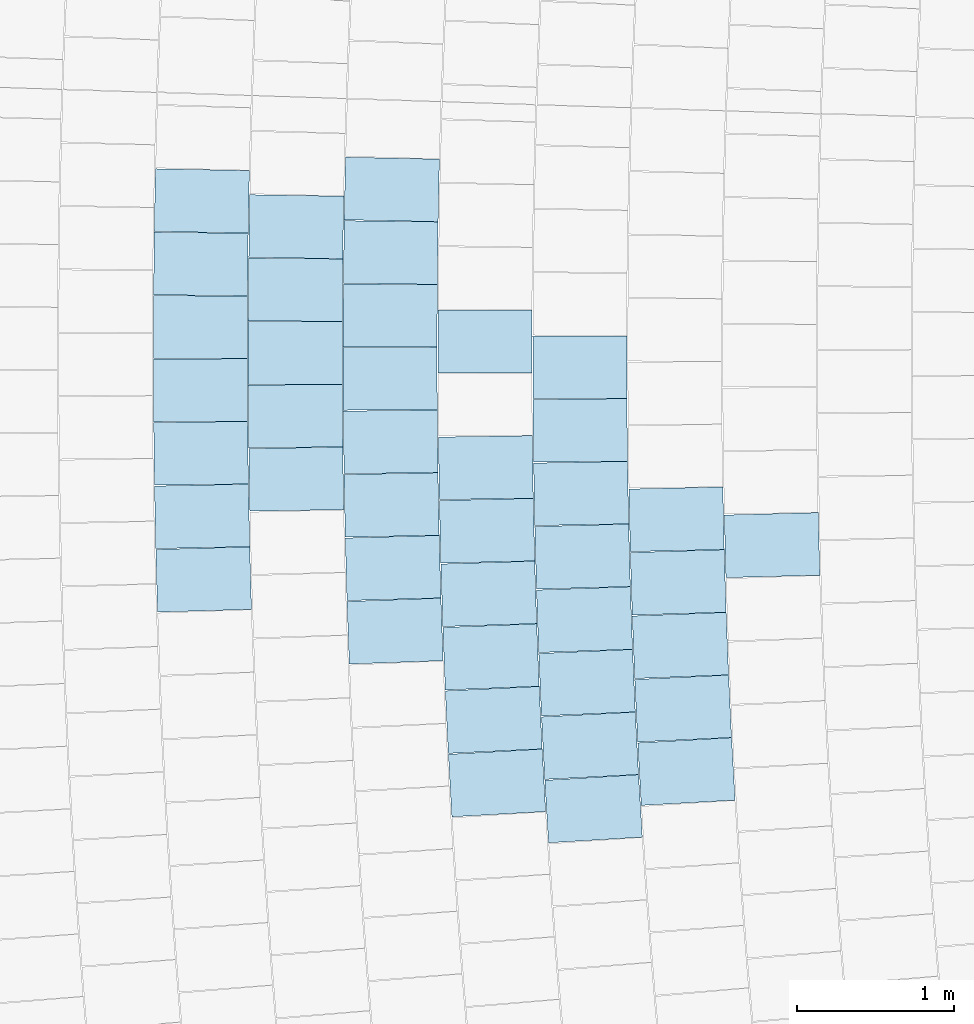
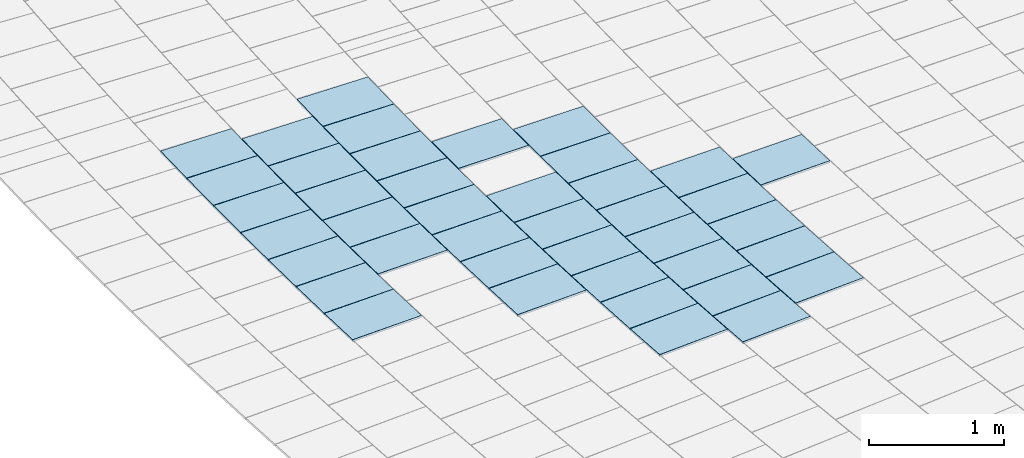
# One storey, part 82 of 438: 41 slabs.
"""IFC2X3 building model written with IfcOpenShell, lengths in millimetres."""

from ifc_helpers import new_model, entity, si_unit, converted_unit, derived_unit, direction, frame, origin, place, context, subcontext, project, spatial, polyline, outline, extrude, material, layer, layer_set, layer_usage, type_object, element, save


model = new_model("IFC2X3")

# Units and contexts
model_context = context("Model", 3, precision=0.01, world=origin(), true_north=direction((6.123031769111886e-17, 1.0)))
body_context = subcontext(model_context, "Body", "Model", "MODEL_VIEW")
ifc_project = project(units=[si_unit("LENGTHUNIT", "METRE", prefix="MILLI"), si_unit("AREAUNIT", "SQUARE_METRE"), si_unit("VOLUMEUNIT", "CUBIC_METRE"), converted_unit("PLANEANGLEUNIT", "DEGREE", entity("IfcRatioMeasure", 0.017453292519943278), si_unit("PLANEANGLEUNIT", "RADIAN"), dimensions=[0, 0, 0, 0, 0, 0, 0]), si_unit("MASSUNIT", "GRAM", prefix="KILO"), derived_unit("MASSDENSITYUNIT", [(si_unit("MASSUNIT", "GRAM", prefix="KILO"), 1), (si_unit("LENGTHUNIT", "METRE"), -3)]), derived_unit("MOMENTOFINERTIAUNIT", [(si_unit("LENGTHUNIT", "METRE"), 4)]), si_unit("TIMEUNIT", "SECOND"), si_unit("FREQUENCYUNIT", "HERTZ"), si_unit("THERMODYNAMICTEMPERATUREUNIT", "DEGREE_CELSIUS"), derived_unit("THERMALTRANSMITTANCEUNIT", [(si_unit("MASSUNIT", "GRAM", prefix="KILO"), 1), (si_unit("THERMODYNAMICTEMPERATUREUNIT", "KELVIN"), -1), (si_unit("TIMEUNIT", "SECOND"), -3)]), derived_unit("THERMALCONDUCTANCEUNIT", [(si_unit("MASSUNIT", "GRAM", prefix="KILO"), 1), (si_unit("LENGTHUNIT", "METRE"), 1), (si_unit("THERMODYNAMICTEMPERATUREUNIT", "KELVIN"), -1), (si_unit("TIMEUNIT", "SECOND"), -3)]), derived_unit("VOLUMETRICFLOWRATEUNIT", [(si_unit("LENGTHUNIT", "METRE"), 3), (si_unit("TIMEUNIT", "SECOND"), -1)]), derived_unit("MASSFLOWRATEUNIT", [(si_unit("MASSUNIT", "GRAM", prefix="KILO"), 1), (si_unit("TIMEUNIT", "SECOND"), -1)]), derived_unit("ROTATIONALFREQUENCYUNIT", [(si_unit("TIMEUNIT", "SECOND"), -1)]), si_unit("ELECTRICCURRENTUNIT", "AMPERE"), si_unit("ELECTRICVOLTAGEUNIT", "VOLT"), si_unit("POWERUNIT", "WATT"), converted_unit("FORCEUNIT", "KIP", entity("IfcRatioMeasure", 2.088543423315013e-05), si_unit("FORCEUNIT", "NEWTON"), dimensions=[1, 1, -2, 0, 0, 0, 0]), si_unit("ILLUMINANCEUNIT", "LUX"), si_unit("LUMINOUSFLUXUNIT", "LUMEN"), si_unit("LUMINOUSINTENSITYUNIT", "CANDELA"), derived_unit("USERDEFINED", [(si_unit("MASSUNIT", "GRAM", prefix="KILO"), -1), (si_unit("LENGTHUNIT", "METRE"), -2), (si_unit("TIMEUNIT", "SECOND"), 3), (si_unit("LUMINOUSFLUXUNIT", "LUMEN"), 1)]), derived_unit("USERDEFINED", [(si_unit("MASSUNIT", "GRAM", prefix="KILO"), 1), (si_unit("LENGTHUNIT", "METRE"), 3), (si_unit("TIMEUNIT", "SECOND"), -3), (si_unit("ELECTRICCURRENTUNIT", "AMPERE"), -2)]), derived_unit("USERDEFINED", [(si_unit("LENGTHUNIT", "METRE"), 2), (si_unit("TIMEUNIT", "SECOND"), -2)]), derived_unit("SOUNDPOWERUNIT", [(si_unit("MASSUNIT", "GRAM", prefix="KILO"), 1), (si_unit("LENGTHUNIT", "METRE"), 2), (si_unit("TIMEUNIT", "SECOND"), -3)]), derived_unit("SOUNDPRESSUREUNIT", [(si_unit("MASSUNIT", "GRAM", prefix="KILO"), 1), (si_unit("LENGTHUNIT", "METRE"), -1), (si_unit("TIMEUNIT", "SECOND"), -2)]), derived_unit("LINEARVELOCITYUNIT", [(si_unit("LENGTHUNIT", "METRE"), 1), (si_unit("TIMEUNIT", "SECOND"), -1)]), si_unit("PRESSUREUNIT", "PASCAL"), derived_unit("USERDEFINED", [(si_unit("LENGTHUNIT", "METRE"), -2), (si_unit("MASSUNIT", "GRAM", prefix="KILO"), 1), (si_unit("TIMEUNIT", "SECOND"), -2)]), derived_unit("LINEARFORCEUNIT", [(si_unit("MASSUNIT", "GRAM", prefix="KILO"), 1), (si_unit("LENGTHUNIT", "METRE"), 1), (si_unit("TIMEUNIT", "SECOND"), -2), (si_unit("LENGTHUNIT", "METRE"), -1)]), derived_unit("PLANARFORCEUNIT", [(si_unit("MASSUNIT", "GRAM", prefix="KILO"), 1), (si_unit("LENGTHUNIT", "METRE"), 1), (si_unit("TIMEUNIT", "SECOND"), -2), (si_unit("LENGTHUNIT", "METRE"), -2)]), derived_unit("SPECIFICHEATCAPACITYUNIT", [(si_unit("LENGTHUNIT", "METRE"), 2), (si_unit("TIMEUNIT", "SECOND"), -2), (si_unit("THERMODYNAMICTEMPERATUREUNIT", "KELVIN"), -1)]), derived_unit("VAPORPERMEABILITYUNIT", [(si_unit("TIMEUNIT", "SECOND"), 1), (si_unit("LENGTHUNIT", "METRE"), -1)]), derived_unit("DYNAMICVISCOSITYUNIT", [(si_unit("MASSUNIT", "GRAM", prefix="KILO"), 1), (si_unit("LENGTHUNIT", "METRE"), -1), (si_unit("TIMEUNIT", "SECOND"), -1)]), derived_unit("THERMALEXPANSIONCOEFFICIENTUNIT", [(si_unit("THERMODYNAMICTEMPERATUREUNIT", "KELVIN"), -1)])], contexts=[model_context])

# Site, building, storey
site_placement = place(None, frame((0.0, 0.0, 0.0), z_axis=(0.0, 0.0, 1.0), x_axis=(0.8191520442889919, 0.5735764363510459, 0.0)))
site = spatial("IfcSite", under=ifc_project, at=site_placement, Name="Default", CompositionType="ELEMENT")
building_placement = place(site_placement, origin())
building = spatial("IfcBuilding", under=site, at=building_placement, CompositionType="ELEMENT")
storey_placement = place(building_placement, origin())
storey = spatial("IfcBuildingStorey", under=building, at=storey_placement, Name="PLAN", CompositionType="ELEMENT", Elevation=0.0)

# Slabs
ifc_material = material(Name="Paint-01")
ifc_layer = layer(ifc_material, 20.00000000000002)
ifc_layer_set = layer_set([ifc_layer], Name="Floor:Slab-179:1000")
ifc_layer_usage = layer_usage(ifc_layer_set, "AXIS3", "POSITIVE", 0.0)
slab_type = type_object("IfcSlabType", Name="Floor:Slab-179:1000", PredefinedType="FLOOR", material=ifc_layer_set)
slab_1_placement = place(storey_placement, origin())
element("IfcSlab", 1, at=slab_1_placement, inside=storey, type_object=slab_type, material=ifc_layer_usage, Name="Floor:Slab-179:1000", ObjectType="Floor:Slab-179:1000", PredefinedType="FLOOR", context=body_context, shape_type="SweptSolid", body=[
    extrude(outline(polyline([(-300.0, -200.0000029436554), (299.9999976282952, -200.00000294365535), (300.0, 200.00000294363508), (-299.9999976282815, 200.00000294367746), (-300.0, -200.0000029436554)])), frame((-81041.55861990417, -42702.89203762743, 520.0), z_axis=(0.0, 0.0, -1.0), x_axis=(0.849915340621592, -0.5269192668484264, 0.0)), (0.0, 0.0, 1.0), 19.99999999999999),
])
slab_2_placement = place(storey_placement, origin())
element("IfcSlab", 2, at=slab_2_placement, inside=storey, type_object=slab_type, material=ifc_layer_usage, Name="Floor:Slab-179:1000", ObjectType="Floor:Slab-179:1000", PredefinedType="FLOOR", context=body_context, shape_type="SweptSolid", body=[
    extrude(outline(polyline([(-300.0, -200.0000029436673), (299.99999762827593, -200.00000294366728), (300.0, 200.0000029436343), (-299.99999762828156, 200.00000294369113), (-300.0, -200.0000029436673)])), frame((-82072.65068032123, -42069.666427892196, 520.0), z_axis=(0.0, 0.0, -1.0), x_axis=(0.8499701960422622, -0.5268307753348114, 0.0)), (0.0, 0.0, 1.0), 20.000000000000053),
])
slab_3_placement = place(storey_placement, origin())
element("IfcSlab", 3, at=slab_3_placement, inside=storey, type_object=slab_type, material=ifc_layer_usage, Name="Floor:Slab-179:1000", ObjectType="Floor:Slab-179:1000", PredefinedType="FLOOR", context=body_context, shape_type="SweptSolid", body=[
    extrude(outline(polyline([(-300.0, -200.00000294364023), (299.9999976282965, -200.00000294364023), (300.0, 200.0000029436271), (-299.9999976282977, 200.00000294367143), (-300.0, -200.00000294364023)])), frame((-81662.77969500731, -42557.544118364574, 520.0), z_axis=(0.0, 0.0, -1.0), x_axis=(0.852121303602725, -0.523344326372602, 0.0)), (0.0, 0.0, 1.0), 19.99999999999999),
])
slab_4_placement = place(storey_placement, origin())
element("IfcSlab", 4, at=slab_4_placement, inside=storey, type_object=slab_type, material=ifc_layer_usage, Name="Floor:Slab-179:1000", ObjectType="Floor:Slab-179:1000", PredefinedType="FLOOR", context=body_context, shape_type="SweptSolid", body=[
    extrude(outline(polyline([(-300.0, -200.000002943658), (299.99999762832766, -200.000002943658), (300.0, 200.0000029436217), (-299.9999976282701, 200.0000029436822), (-300.0, -200.000002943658)])), frame((-79765.83576277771, -41833.30894435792, 520.0), z_axis=(0.0, 0.0, -1.0), x_axis=(0.8338171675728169, -0.5520406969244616, 0.0)), (0.0, 0.0, 1.0), 20.000000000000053),
])
slab_5_placement = place(storey_placement, origin())
element("IfcSlab", 5, at=slab_5_placement, inside=storey, type_object=slab_type, material=ifc_layer_usage, Name="Floor:Slab-179:1000", ObjectType="Floor:Slab-179:1000", PredefinedType="FLOOR", context=body_context, shape_type="SweptSolid", body=[
    extrude(outline(polyline([(-300.0, -200.00000294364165), (299.9999976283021, -200.00000294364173), (300.0, 200.00000294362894), (-299.9999976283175, 200.0000029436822), (-300.0, -200.00000294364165)])), frame((-80828.0294611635, -42361.68069558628, 520.0), z_axis=(0.0, 0.0, -1.0), x_axis=(0.845458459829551, -0.5340411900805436, 0.0)), (0.0, 0.0, 1.0), 20.000000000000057),
])
slab_6_placement = place(storey_placement, origin())
element("IfcSlab", 6, at=slab_6_placement, inside=storey, type_object=slab_type, material=ifc_layer_usage, Name="Floor:Slab-179:1000", ObjectType="Floor:Slab-179:1000", PredefinedType="FLOOR", context=body_context, shape_type="SweptSolid", body=[
    extrude(outline(polyline([(-300.0, -200.00000294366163), (299.99999762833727, -200.00000294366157), (300.0, 200.0000029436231), (-299.9999976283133, 200.0000029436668), (-300.0, -200.00000294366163)])), frame((-80611.64116905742, -42022.27535000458, 520.0), z_axis=(0.0, 0.0, -1.0), x_axis=(0.8409419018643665, -0.5411254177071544, 0.0)), (0.0, 0.0, 1.0), 20.000000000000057),
])
slab_7_placement = place(storey_placement, origin())
element("IfcSlab", 7, at=slab_7_placement, inside=storey, type_object=slab_type, material=ifc_layer_usage, Name="Floor:Slab-179:1000", ObjectType="Floor:Slab-179:1000", PredefinedType="FLOOR", context=body_context, shape_type="SweptSolid", body=[
    extrude(outline(polyline([(-300.0, -200.0000029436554), (299.9999976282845, -200.00000294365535), (300.0, 200.00000294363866), (-299.99999762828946, 200.00000294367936), (-300.0, -200.0000029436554)])), frame((-80392.40901747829, -41684.69995800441, 520.0), z_axis=(0.0, 0.0, -1.0), x_axis=(0.8363659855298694, -0.5481714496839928, 0.0)), (0.0, 0.0, 1.0), 20.000000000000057),
])
slab_8_placement = place(storey_placement, origin())
element("IfcSlab", 8, at=slab_8_placement, inside=storey, type_object=slab_type, material=ifc_layer_usage, Name="Floor:Slab-179:1000", ObjectType="Floor:Slab-179:1000", PredefinedType="FLOOR", context=body_context, shape_type="SweptSolid", body=[
    extrude(outline(polyline([(-300.0, -200.00000294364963), (299.99999762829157, -200.00000294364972), (300.0, 200.00000294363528), (-299.9999976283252, 200.00000294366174), (-300.0, -200.00000294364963)])), frame((-80170.34848105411, -41348.97834753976, 520.0), z_axis=(0.0, 0.0, -1.0), x_axis=(0.8317310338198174, -0.5551787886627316, 0.0)), (0.0, 0.0, 1.0), 19.99999999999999),
])
slab_9_placement = place(storey_placement, origin())
element("IfcSlab", 9, at=slab_9_placement, inside=storey, type_object=slab_type, material=ifc_layer_usage, Name="Floor:Slab-179:1000", ObjectType="Floor:Slab-179:1000", PredefinedType="FLOOR", context=body_context, shape_type="SweptSolid", body=[
    extrude(outline(polyline([(-300.0, -200.00000294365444), (299.99999762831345, -200.00000294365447), (300.0, 200.00000294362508), (-299.9999976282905, 200.0000029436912), (-300.0, -200.00000294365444)])), frame((-81450.7204170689, -42215.45442834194, 520.0), z_axis=(0.0, 0.0, -1.0), x_axis=(0.8477502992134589, -0.530395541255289, 0.0)), (0.0, 0.0, 1.0), 20.000000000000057),
])
slab_10_placement = place(storey_placement, origin())
element("IfcSlab", 10, at=slab_10_placement, inside=storey, type_object=slab_type, material=ifc_layer_usage, Name="Floor:Slab-179:1000", ObjectType="Floor:Slab-179:1000", PredefinedType="FLOOR", context=body_context, shape_type="SweptSolid", body=[
    extrude(outline(polyline([(-300.0, -200.0000029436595), (299.9999976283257, -200.00000294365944), (300.0, 200.0000029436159), (-299.9999976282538, 200.0000029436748), (-300.0, -200.0000029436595)])), frame((-81018.12458385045, -41536.61153836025, 520.0), z_axis=(0.0, 0.0, -1.0), x_axis=(0.8388335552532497, -0.5443879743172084, 0.0)), (0.0, 0.0, 1.0), 19.999999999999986),
])
slab_11_placement = place(storey_placement, origin())
element("IfcSlab", 11, at=slab_11_placement, inside=storey, type_object=slab_type, material=ifc_layer_usage, Name="Floor:Slab-179:1000", ObjectType="Floor:Slab-179:1000", PredefinedType="FLOOR", context=body_context, shape_type="SweptSolid", body=[
    extrude(outline(polyline([(-300.0, -200.00000294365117), (299.9999976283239, -200.00000294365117), (300.0, 200.00000294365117), (-299.99999762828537, 200.00000294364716), (-300.0, -200.00000294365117)])), frame((-81235.83045006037, -41875.13576082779, 520.0), z_axis=(0.0, 0.0, -1.0), x_axis=(0.8433209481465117, -0.5374102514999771, 0.0)), (0.0, 0.0, 1.0), 20.000000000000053),
])
slab_12_placement = place(storey_placement, origin())
element("IfcSlab", 12, at=slab_12_placement, inside=storey, type_object=slab_type, material=ifc_layer_usage, Name="Floor:Slab-179:1000", ObjectType="Floor:Slab-179:1000", PredefinedType="FLOOR", context=body_context, shape_type="SweptSolid", body=[
    extrude(outline(polyline([(-300.0, -200.0000029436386), (299.9999976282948, -200.00000294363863), (300.0, 200.00000294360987), (-299.99999762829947, 200.0000029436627), (-300.0, -200.0000029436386)])), frame((-80574.32528129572, -40865.03949959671, 520.0), z_axis=(0.0, 0.0, -1.0), x_axis=(0.8296858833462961, -0.5582305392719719, 0.0)), (0.0, 0.0, 1.0), 20.000000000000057),
])
slab_13_placement = place(storey_placement, origin())
element("IfcSlab", 13, at=slab_13_placement, inside=storey, type_object=slab_type, material=ifc_layer_usage, Name="Floor:Slab-179:1000", ObjectType="Floor:Slab-179:1000", PredefinedType="FLOOR", context=body_context, shape_type="SweptSolid", body=[
    extrude(outline(polyline([(-300.0, -200.0000029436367), (299.9999976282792, -200.00000294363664), (300.0, 200.00000294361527), (-299.99999762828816, 200.00000294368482), (-300.0, -200.0000029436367)])), frame((-80348.26238957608, -40532.03790445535, 520.0), z_axis=(0.0, 0.0, -1.0), x_axis=(0.8250262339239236, -0.5650944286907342, 0.0)), (0.0, 0.0, 1.0), 19.99999999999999),
])
slab_14_placement = place(storey_placement, origin())
element("IfcSlab", 14, at=slab_14_placement, inside=storey, type_object=slab_type, material=ifc_layer_usage, Name="Floor:Slab-179:1000", ObjectType="Floor:Slab-179:1000", PredefinedType="FLOOR", context=body_context, shape_type="SweptSolid", body=[
    extrude(outline(polyline([(-300.0, -200.0000029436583), (299.99999762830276, -200.0000029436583), (300.0, 200.00000294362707), (-299.99999762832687, 200.00000294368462), (-300.0, -200.0000029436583)])), frame((-80797.61780211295, -41199.90505997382, 520.0), z_axis=(0.0, 0.0, -1.0), x_axis=(0.834288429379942, -0.5513282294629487, 0.0)), (0.0, 0.0, 1.0), 20.000000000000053),
])
slab_15_placement = place(storey_placement, origin())
element("IfcSlab", 15, at=slab_15_placement, inside=storey, type_object=slab_type, material=ifc_layer_usage, Name="Floor:Slab-179:1000", ObjectType="Floor:Slab-179:1000", PredefinedType="FLOOR", context=body_context, shape_type="SweptSolid", body=[
    extrude(outline(polyline([(-300.0, -200.00000294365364), (299.99999762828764, -200.00000294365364), (300.0, 200.000002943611), (-299.9999976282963, 200.0000029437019), (-300.0, -200.00000294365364)])), frame((-80119.44468580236, -40200.9231934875, 520.0), z_axis=(0.0, 0.0, -1.0), x_axis=(0.8203098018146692, -0.5719194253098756, 0.0)), (0.0, 0.0, 1.0), 19.999999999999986),
])
slab_16_placement = place(storey_placement, origin())
element("IfcSlab", 16, at=slab_16_placement, inside=storey, type_object=slab_type, material=ifc_layer_usage, Name="Floor:Slab-179:1000", ObjectType="Floor:Slab-179:1000", PredefinedType="FLOOR", context=body_context, shape_type="SweptSolid", body=[
    extrude(outline(polyline([(-300.0, -200.00000294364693), (299.99999762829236, -200.00000294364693), (300.0, 200.00000294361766), (-299.9999976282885, 200.0000029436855), (-300.0, -200.00000294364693)])), frame((-81859.22561224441, -41728.46344462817, 520.0), z_axis=(0.0, 0.0, -1.0), x_axis=(0.8456252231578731, -0.5337770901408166, 0.0)), (0.0, 0.0, 1.0), 19.999999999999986),
])
slab_17_placement = place(storey_placement, origin())
element("IfcSlab", 17, at=slab_17_placement, inside=storey, type_object=slab_type, material=ifc_layer_usage, Name="Floor:Slab-179:1000", ObjectType="Floor:Slab-179:1000", PredefinedType="FLOOR", context=body_context, shape_type="SweptSolid", body=[
    extrude(outline(polyline([(-300.0, -200.00000294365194), (299.99999762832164, -200.00000294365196), (300.0, 200.00000294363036), (-299.9999976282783, 200.00000294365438), (-300.0, -200.00000294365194)])), frame((-81202.27831475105, -40715.50607630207, 520.0), z_axis=(0.0, 0.0, -1.0), x_axis=(0.8322508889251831, -0.554399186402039, 0.0)), (0.0, 0.0, 1.0), 20.000000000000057),
])
slab_18_placement = place(storey_placement, origin())
element("IfcSlab", 18, at=slab_18_placement, inside=storey, type_object=slab_type, material=ifc_layer_usage, Name="Floor:Slab-179:1000", ObjectType="Floor:Slab-179:1000", PredefinedType="FLOOR", context=body_context, shape_type="SweptSolid", body=[
    extrude(outline(polyline([(-300.0, -200.00000294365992), (299.99999762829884, -200.00000294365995), (300.0, 200.00000294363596), (-299.9999976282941, 200.0000029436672), (-300.0, -200.00000294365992)])), frame((-81424.02482192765, -41051.36054184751, 520.0), z_axis=(0.0, 0.0, -1.0), x_axis=(0.8367652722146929, -0.5475617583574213, 0.0)), (0.0, 0.0, 1.0), 20.000000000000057),
])
slab_19_placement = place(storey_placement, origin())
element("IfcSlab", 19, at=slab_19_placement, inside=storey, type_object=slab_type, material=ifc_layer_usage, Name="Floor:Slab-179:1000", ObjectType="Floor:Slab-179:1000", PredefinedType="FLOOR", context=body_context, shape_type="SweptSolid", body=[
    extrude(outline(polyline([(-300.0, -200.00000294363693), (299.99999762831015, -200.00000294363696), (300.0, 200.00000294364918), (-299.99999762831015, 200.00000294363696), (-300.0, -200.00000294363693)])), frame((-80977.78751896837, -40381.47970297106, 520.0), z_axis=(0.0, 0.0, -1.0), x_axis=(0.8276806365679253, -0.5611993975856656, 0.0)), (0.0, 0.0, 1.0), 19.999999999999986),
])
slab_20_placement = place(storey_placement, origin())
element("IfcSlab", 20, at=slab_20_placement, inside=storey, type_object=slab_type, material=ifc_layer_usage, Name="Floor:Slab-179:1000", ObjectType="Floor:Slab-179:1000", PredefinedType="FLOOR", context=body_context, shape_type="SweptSolid", body=[
    extrude(outline(polyline([(-300.0, -200.00000294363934), (299.9999976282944, -200.00000294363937), (300.0, 200.00000294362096), (-299.99999762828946, 200.00000294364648), (-300.0, -200.00000294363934)])), frame((-80520.63352513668, -39719.00080159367, 520.0), z_axis=(0.0, 0.0, -1.0), x_axis=(0.8183737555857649, -0.5746863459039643, 0.0)), (0.0, 0.0, 1.0), 20.000000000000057),
])
slab_21_placement = place(storey_placement, origin())
element("IfcSlab", 21, at=slab_21_placement, inside=storey, type_object=slab_type, material=ifc_layer_usage, Name="Floor:Slab-179:1000", ObjectType="Floor:Slab-179:1000", PredefinedType="FLOOR", context=body_context, shape_type="SweptSolid", body=[
    extrude(outline(polyline([(-300.0, -200.0000029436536), (299.9999976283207, -200.0000029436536), (300.0, 200.0000029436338), (-299.9999976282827, 200.00000294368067), (-300.0, -200.0000029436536)])), frame((-81643.01215463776, -41389.02055367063, 520.0), z_axis=(0.0, 0.0, -1.0), x_axis=(0.841223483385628, -0.5406875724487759, 0.0)), (0.0, 0.0, 1.0), 19.999999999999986),
])
slab_22_placement = place(storey_placement, origin())
element("IfcSlab", 22, at=slab_22_placement, inside=storey, type_object=slab_type, material=ifc_layer_usage, Name="Floor:Slab-179:1000", ObjectType="Floor:Slab-179:1000", PredefinedType="FLOOR", context=body_context, shape_type="SweptSolid", body=[
    extrude(outline(polyline([(-300.0, -200.00000294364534), (299.99999762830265, -200.0000029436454), (300.0, 200.00000294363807), (-299.999997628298, 200.00000294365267), (-300.0, -200.00000294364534)])), frame((-82049.59897910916, -40903.32158330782, 520.0), z_axis=(0.0, 0.0, -1.0), x_axis=(0.8391650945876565, -0.5438767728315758, 0.0)), (0.0, 0.0, 1.0), 20.000000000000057),
])
slab_23_placement = place(storey_placement, origin())
element("IfcSlab", 23, at=slab_23_placement, inside=storey, type_object=slab_type, material=ifc_layer_usage, Name="Floor:Slab-179:1000", ObjectType="Floor:Slab-179:1000", PredefinedType="FLOOR", context=body_context, shape_type="SweptSolid", body=[
    extrude(outline(polyline([(-300.0, -200.00000294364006), (299.9999976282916, -200.00000294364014), (300.0, 200.0000029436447), (-299.9999976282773, 200.00000294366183), (-300.0, -200.00000294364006)])), frame((-81829.36485410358, -40566.50929902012, 520.0), z_axis=(0.0, 0.0, -1.0), x_axis=(0.8347360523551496, -0.5506502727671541, 0.0)), (0.0, 0.0, 1.0), 20.000000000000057),
])
slab_24_placement = place(storey_placement, origin())
element("IfcSlab", 24, at=slab_24_placement, inside=storey, type_object=slab_type, material=ifc_layer_usage, Name="Floor:Slab-179:1000", ObjectType="Floor:Slab-179:1000", PredefinedType="FLOOR", context=body_context, shape_type="SweptSolid", body=[
    extrude(outline(polyline([(-300.0, -200.00000294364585), (299.99999762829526, -200.00000294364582), (300.0, 200.00000294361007), (-299.9999976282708, 200.00000294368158), (-300.0, -200.00000294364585)])), frame((-81380.75544096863, -39898.286786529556, 520.0), z_axis=(0.0, 0.0, -1.0), x_axis=(0.8257142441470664, -0.5640886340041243, 0.0)), (0.0, 0.0, 1.0), 20.000000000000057),
])
slab_25_placement = place(storey_placement, origin())
element("IfcSlab", 25, at=slab_25_placement, inside=storey, type_object=slab_type, material=ifc_layer_usage, Name="Floor:Slab-179:1000", ObjectType="Floor:Slab-179:1000", PredefinedType="FLOOR", context=body_context, shape_type="SweptSolid", body=[
    extrude(outline(polyline([(-300.0, -200.00000294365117), (299.9999976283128, -200.00000294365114), (300.0, 200.00000294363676), (-299.9999976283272, 200.00000294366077), (-300.0, -200.00000294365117)])), frame((-81606.4121404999, -40231.49038588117, 520.0), z_axis=(0.0, 0.0, -1.0), x_axis=(0.8302523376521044, -0.5573877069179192, 0.0)), (0.0, 0.0, 1.0), 20.000000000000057),
])
slab_26_placement = place(storey_placement, origin())
element("IfcSlab", 26, at=slab_26_placement, inside=storey, type_object=slab_type, material=ifc_layer_usage, Name="Floor:Slab-179:1000", ObjectType="Floor:Slab-179:1000", PredefinedType="FLOOR", context=body_context, shape_type="SweptSolid", body=[
    extrude(outline(polyline([(-300.0, -200.0000029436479), (299.9999976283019, -200.0000029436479), (300.0, 200.00000294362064), (-299.999997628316, 200.00000294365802), (-300.0, -200.0000029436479)])), frame((-80687.71010423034, -38909.78550556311, 520.0), z_axis=(0.0, 0.0, -1.0), x_axis=(0.8117766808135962, -0.5839679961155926, 0.0)), (0.0, 0.0, 1.0), 20.000000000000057),
])
slab_27_placement = place(storey_placement, origin())
element("IfcSlab", 27, at=slab_27_placement, inside=storey, type_object=slab_type, material=ifc_layer_usage, Name="Floor:Slab-179:1000", ObjectType="Floor:Slab-179:1000", PredefinedType="FLOOR", context=body_context, shape_type="SweptSolid", body=[
    extrude(outline(polyline([(-300.0, -200.00000294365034), (299.99999762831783, -200.0000029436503), (300.0, 200.00000294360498), (-299.9999976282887, 200.0000029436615), (-300.0, -200.00000294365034)])), frame((-80921.38937934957, -39237.41270382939, 520.0), z_axis=(0.0, 0.0, -1.0), x_axis=(0.8164761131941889, -0.5773792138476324, 0.0)), (0.0, 0.0, 1.0), 19.99999999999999),
])
slab_28_placement = place(storey_placement, origin())
element("IfcSlab", 28, at=slab_28_placement, inside=storey, type_object=slab_type, material=ifc_layer_usage, Name="Floor:Slab-179:1000", ObjectType="Floor:Slab-179:1000", PredefinedType="FLOOR", context=body_context, shape_type="SweptSolid", body=[
    extrude(outline(polyline([(-300.0, -200.00000294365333), (299.9999976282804, -200.00000294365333), (300.0, 200.00000294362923), (-299.99999762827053, 200.00000294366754), (-300.0, -200.00000294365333)])), frame((-81152.40953528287, -39566.92032470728, 520.0), z_axis=(0.0, 0.0, -1.0), x_axis=(0.8211220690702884, -0.5707526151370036, 0.0)), (0.0, 0.0, 1.0), 20.000000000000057),
])
slab_29_placement = place(storey_placement, origin())
element("IfcSlab", 29, at=slab_29_placement, inside=storey, type_object=slab_type, material=ifc_layer_usage, Name="Floor:Slab-179:1000", ObjectType="Floor:Slab-179:1000", PredefinedType="FLOOR", context=body_context, shape_type="SweptSolid", body=[
    extrude(outline(polyline([(-300.0, -200.00000294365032), (299.9999976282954, -200.00000294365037), (300.0, 200.00000294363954), (-299.99999762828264, 200.00000294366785), (-300.0, -200.00000294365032)])), frame((-80451.38701515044, -38584.06018841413, 520.0), z_axis=(0.0, 0.0, -1.0), x_axis=(0.8070240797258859, -0.5905185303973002, 0.0)), (0.0, 0.0, 1.0), 20.000000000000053),
])
slab_30_placement = place(storey_placement, origin())
element("IfcSlab", 30, at=slab_30_placement, inside=storey, type_object=slab_type, material=ifc_layer_usage, Name="Floor:Slab-179:1000", ObjectType="Floor:Slab-179:1000", PredefinedType="FLOOR", context=body_context, shape_type="SweptSolid", body=[
    extrude(outline(polyline([(-300.0, -200.00000294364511), (299.99999762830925, -200.00000294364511), (300.0, 200.00000294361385), (-299.9999976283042, 200.0000029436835), (-300.0, -200.00000294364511)])), frame((-82010.03975747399, -39747.845881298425, 520.0), z_axis=(0.0, 0.0, -1.0), x_axis=(0.8282917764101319, -0.560297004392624, 0.0)), (0.0, 0.0, 1.0), 20.000000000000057),
])
slab_31_placement = place(storey_placement, origin())
element("IfcSlab", 31, at=slab_31_placement, inside=storey, type_object=slab_type, material=ifc_layer_usage, Name="Floor:Slab-179:1000", ObjectType="Floor:Slab-179:1000", PredefinedType="FLOOR", context=body_context, shape_type="SweptSolid", body=[
    extrude(outline(polyline([(-300.0, -200.0000029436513), (299.99999762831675, -200.0000029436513), (300.0, 200.0000029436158), (-299.99999762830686, 200.00000294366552), (-300.0, -200.0000029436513)])), frame((-81553.80646557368, -39084.876116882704, 520.0), z_axis=(0.0, 0.0, -1.0), x_axis=(0.8192269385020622, -0.573469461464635, 0.0)), (0.0, 0.0, 1.0), 19.99999999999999),
])
slab_32_placement = place(storey_placement, origin())
element("IfcSlab", 32, at=slab_32_placement, inside=storey, type_object=slab_type, material=ifc_layer_usage, Name="Floor:Slab-179:1000", ObjectType="Floor:Slab-179:1000", PredefinedType="FLOOR", context=body_context, shape_type="SweptSolid", body=[
    extrude(outline(polyline([(-300.0, -200.0000029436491), (299.99999762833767, -200.00000294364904), (300.0, 200.00000294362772), (-299.99999762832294, 200.00000294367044), (-300.0, -200.0000029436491)])), frame((-81783.24825598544, -39415.44907964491, 520.0), z_axis=(0.0, 0.0, -1.0), x_axis=(0.8237856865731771, -0.5669013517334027, 0.0)), (0.0, 0.0, 1.0), 20.000000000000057),
])
slab_33_placement = place(storey_placement, origin())
element("IfcSlab", 33, at=slab_33_placement, inside=storey, type_object=slab_type, material=ifc_layer_usage, Name="Floor:Slab-179:1000", ObjectType="Floor:Slab-179:1000", PredefinedType="FLOOR", context=body_context, shape_type="SweptSolid", body=[
    extrude(outline(polyline([(-300.0, -200.00000294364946), (299.9999976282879, -200.0000029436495), (300.0, 200.0000029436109), (-299.99999762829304, 200.0000029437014), (-300.0, -200.00000294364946)])), frame((-81087.03085219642, -38429.28611396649, 520.0), z_axis=(0.0, 0.0, -1.0), x_axis=(0.8099526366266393, -0.5864952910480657, 0.0)), (0.0, 0.0, 1.0), 19.999999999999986),
])
slab_34_placement = place(storey_placement, origin())
element("IfcSlab", 34, at=slab_34_placement, inside=storey, type_object=slab_type, material=ifc_layer_usage, Name="Floor:Slab-179:1000", ObjectType="Floor:Slab-179:1000", PredefinedType="FLOOR", context=body_context, shape_type="SweptSolid", body=[
    extrude(outline(polyline([(-300.0, -200.00000294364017), (299.9999976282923, -200.00000294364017), (300.0, 200.00000294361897), (-299.9999976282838, 200.00000294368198), (-300.0, -200.00000294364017)])), frame((-81321.7290526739, -38756.14812397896, 520.0), z_axis=(0.0, 0.0, -1.0), x_axis=(0.8146158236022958, -0.5800009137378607, 0.0)), (0.0, 0.0, 1.0), 20.000000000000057),
])
slab_35_placement = place(storey_placement, origin())
element("IfcSlab", 35, at=slab_35_placement, inside=storey, type_object=slab_type, material=ifc_layer_usage, Name="Floor:Slab-179:1000", ObjectType="Floor:Slab-179:1000", PredefinedType="FLOOR", context=body_context, shape_type="SweptSolid", body=[
    extrude(outline(polyline([(-300.0, -200.00000294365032), (299.99999762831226, -200.00000294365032), (300.0, 200.00000294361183), (-299.999997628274, 200.00000294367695), (-300.0, -200.00000294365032)])), frame((-82861.0794243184, -39933.12104945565, 520.0), z_axis=(0.0, 0.0, -1.0), x_axis=(0.8351617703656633, -0.5500043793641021, 0.0)), (0.0, 0.0, 1.0), 20.000000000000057),
])
slab_36_placement = place(storey_placement, origin())
element("IfcSlab", 36, at=slab_36_placement, inside=storey, type_object=slab_type, material=ifc_layer_usage, Name="Floor:Slab-179:1000", ObjectType="Floor:Slab-179:1000", PredefinedType="FLOOR", context=body_context, shape_type="SweptSolid", body=[
    extrude(outline(polyline([(-300.0, -200.0000029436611), (299.99999762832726, -200.000002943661), (300.0, 200.00000294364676), (-299.9999976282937, 200.0000029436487), (-300.0, -200.0000029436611)])), frame((-82413.18060628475, -39264.56094419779, 520.0), z_axis=(0.0, 0.0, -1.0), x_axis=(0.8263682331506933, -0.563130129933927, 0.0)), (0.0, 0.0, 1.0), 19.99999999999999),
])
slab_37_placement = place(storey_placement, origin())
element("IfcSlab", 37, at=slab_37_placement, inside=storey, type_object=slab_type, material=ifc_layer_usage, Name="Floor:Slab-179:1000", ObjectType="Floor:Slab-179:1000", PredefinedType="FLOOR", context=body_context, shape_type="SweptSolid", body=[
    extrude(outline(polyline([(-300.0, -200.0000029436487), (299.9999976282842, -200.00000294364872), (300.0, 200.0000029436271), (-299.9999976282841, 200.00000294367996), (-300.0, -200.0000029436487)])), frame((-82638.4503670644, -39597.956433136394, 520.0), z_axis=(0.0, 0.0, -1.0), x_axis=(0.8307909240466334, -0.556584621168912, 0.0)), (0.0, 0.0, 1.0), 19.999999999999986),
])
slab_38_placement = place(storey_placement, origin())
element("IfcSlab", 38, at=slab_38_placement, inside=storey, type_object=slab_type, material=ifc_layer_usage, Name="Floor:Slab-179:1000", ObjectType="Floor:Slab-179:1000", PredefinedType="FLOOR", context=body_context, shape_type="SweptSolid", body=[
    extrude(outline(polyline([(-300.0, -200.000002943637), (299.99999762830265, -200.000002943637), (300.0, 200.00000294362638), (-299.9999976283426, 200.0000029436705), (-300.0, -200.000002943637)])), frame((-81954.77536888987, -38603.16045745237, 520.0), z_axis=(0.0, 0.0, -1.0), x_axis=(0.8173684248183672, -0.5761153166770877, 0.0)), (0.0, 0.0, 1.0), 20.000000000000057),
])
slab_39_placement = place(storey_placement, origin())
element("IfcSlab", 39, at=slab_39_placement, inside=storey, type_object=slab_type, material=ifc_layer_usage, Name="Floor:Slab-179:1000", ObjectType="Floor:Slab-179:1000", PredefinedType="FLOOR", context=body_context, shape_type="SweptSolid", body=[
    extrude(outline(polyline([(-300.0, -200.00000294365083), (299.99999762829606, -200.00000294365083), (300.0, 200.0000029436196), (-299.99999762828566, 200.0000029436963), (-300.0, -200.00000294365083)])), frame((-82185.2841996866, -38932.955387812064, 520.0), z_axis=(0.0, 0.0, -1.0), x_axis=(0.8218939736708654, -0.5696404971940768, 0.0)), (0.0, 0.0, 1.0), 19.999999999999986),
])
slab_40_placement = place(storey_placement, origin())
element("IfcSlab", 40, at=slab_40_placement, inside=storey, type_object=slab_type, material=ifc_layer_usage, Name="Floor:Slab-179:1000", ObjectType="Floor:Slab-179:1000", PredefinedType="FLOOR", context=body_context, shape_type="SweptSolid", body=[
    extrude(outline(polyline([(-300.0, -200.0000029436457), (299.9999976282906, -200.00000294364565), (300.0, 200.00000294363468), (-299.99999762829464, 200.00000294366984), (-300.0, -200.0000029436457)])), frame((-81721.66849853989, -38275.19673360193, 520.0), z_axis=(0.0, 0.0, -1.0), x_axis=(0.8127918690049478, -0.5825541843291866, 0.0)), (0.0, 0.0, 1.0), 19.99999999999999),
])
slab_41_placement = place(storey_placement, origin())
element("IfcSlab", 41, at=slab_41_placement, inside=storey, type_object=slab_type, material=ifc_layer_usage, Name="Floor:Slab-179:1000", ObjectType="Floor:Slab-179:1000", PredefinedType="FLOOR", context=body_context, shape_type="SweptSolid", body=[
    extrude(outline(polyline([(-300.0, -200.0000029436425), (299.999997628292, -200.00000294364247), (300.0, 200.00000294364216), (-299.99999762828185, 200.00000294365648), (-300.0, -200.0000029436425)])), frame((-81485.9781354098, -37949.084682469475, 520.0), z_axis=(0.0, 0.0, -1.0), x_axis=(0.8081645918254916, -0.5889566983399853, 0.0)), (0.0, 0.0, 1.0), 20.000000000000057),
])

save(model, "model.ifc")
